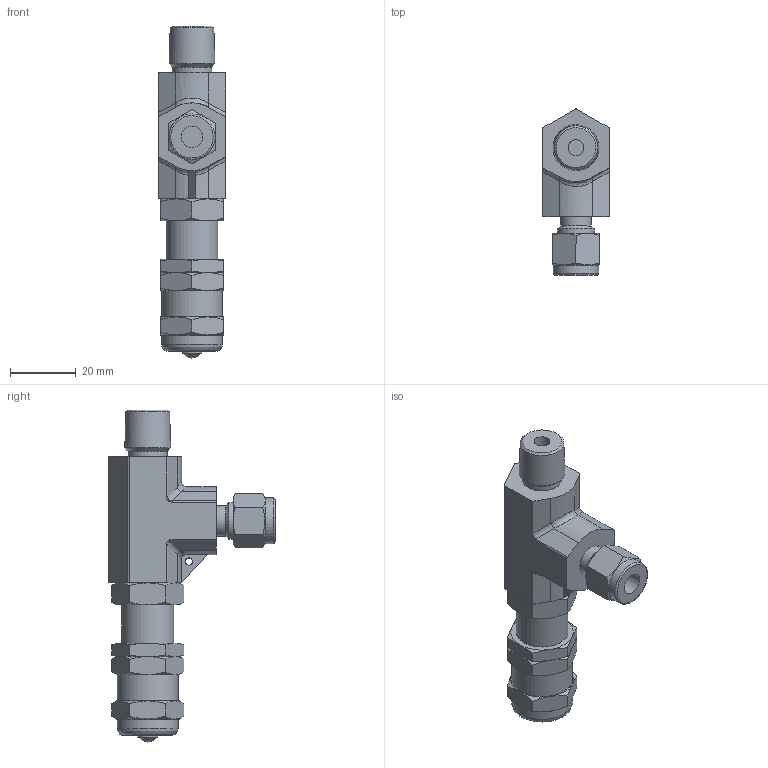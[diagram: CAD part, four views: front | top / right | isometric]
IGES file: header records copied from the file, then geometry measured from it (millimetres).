
Global section: file name: SRV-M4N-S4; native system: Autodesk Inventor 2016; preprocessor: unknown; author: 이승민,,11,0; organization: 20161227.091307; date: 20161229.080754; units: millimetre
Bounding box: 20.6 x 50.56 x 101 mm (x, y, z)
Volume: 29443.5 mm3; surface area: 13778.3 mm2
Topology: 5 solids, 5 shells, 208 faces, 505 edges, 328 vertices
Faces by surface type: bspline 208
